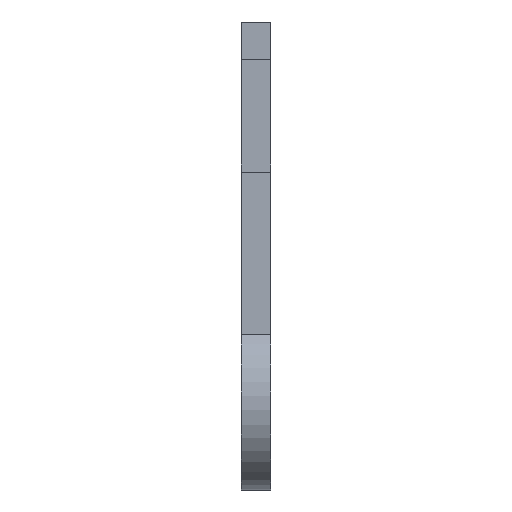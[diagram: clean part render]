
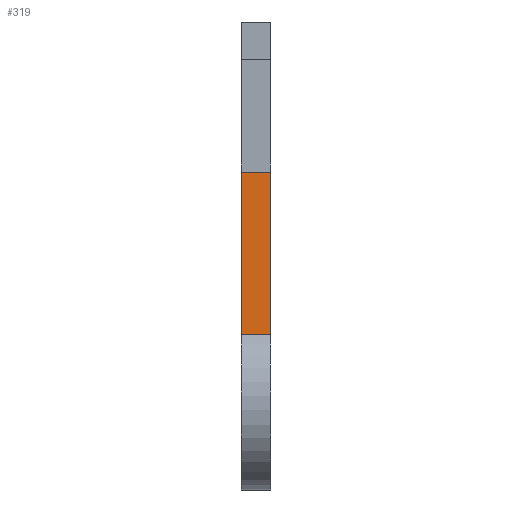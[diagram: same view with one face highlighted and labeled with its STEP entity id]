
A CAD part, left-side view. The second image highlights one B-rep face of the part: STEP entity #319.
In plain terms, the highlighted planar face has unit normal (-1, 0, 0).
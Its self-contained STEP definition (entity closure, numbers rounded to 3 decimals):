
#23 = EDGE_CURVE ( 'NONE', #856, #570, #962, .T. ) ;
#47 = CARTESIAN_POINT ( 'NONE',  ( -28.1, 0., 0. ) ) ;
#79 = LINE ( 'NONE', #763, #236 ) ;
#111 = DIRECTION ( 'NONE',  ( 0., -1., 0. ) ) ;
#119 = FACE_OUTER_BOUND ( 'NONE', #714, .T. ) ;
#145 = ORIENTED_EDGE ( 'NONE', *, *, #798, .F. ) ;
#173 = AXIS2_PLACEMENT_3D ( 'NONE', #424, #898, #961 ) ;
#182 = ORIENTED_EDGE ( 'NONE', *, *, #23, .F. ) ;
#236 = VECTOR ( 'NONE', #535, 1000. ) ;
#262 = CARTESIAN_POINT ( 'NONE',  ( -28.1, 1., -5.718 ) ) ;
#319 = ADVANCED_FACE ( 'NONE', ( #119 ), #654, .T. ) ;
#332 = ORIENTED_EDGE ( 'NONE', *, *, #529, .T. ) ;
#341 = VECTOR ( 'NONE', #111, 1000. ) ;
#401 = VERTEX_POINT ( 'NONE', #668 ) ;
#416 = LINE ( 'NONE', #262, #341 ) ;
#424 = CARTESIAN_POINT ( 'NONE',  ( -28.1, 1., 0. ) ) ;
#438 = ORIENTED_EDGE ( 'NONE', *, *, #581, .T. ) ;
#442 = DIRECTION ( 'NONE',  ( 0., -1., 0. ) ) ;
#457 = CARTESIAN_POINT ( 'NONE',  ( -28.1, 0., -5.718 ) ) ;
#469 = VERTEX_POINT ( 'NONE', #457 ) ;
#503 = VECTOR ( 'NONE', #442, 1000. ) ;
#513 = VECTOR ( 'NONE', #593, 1000. ) ;
#529 = EDGE_CURVE ( 'NONE', #856, #401, #79, .T. ) ;
#535 = DIRECTION ( 'NONE',  ( 0., 0., -1. ) ) ;
#570 = VERTEX_POINT ( 'NONE', #914 ) ;
#581 = EDGE_CURVE ( 'NONE', #401, #469, #416, .T. ) ;
#593 = DIRECTION ( 'NONE',  ( 0., 0., -1. ) ) ;
#654 = PLANE ( 'NONE',  #173 ) ;
#668 = CARTESIAN_POINT ( 'NONE',  ( -28.1, 1., -5.718 ) ) ;
#714 = EDGE_LOOP ( 'NONE', ( #145, #182, #332, #438 ) ) ;
#763 = CARTESIAN_POINT ( 'NONE',  ( -28.1, 1., 0. ) ) ;
#798 = EDGE_CURVE ( 'NONE', #570, #469, #977, .T. ) ;
#826 = CARTESIAN_POINT ( 'NONE',  ( -28.1, 1., -0.266 ) ) ;
#837 = CARTESIAN_POINT ( 'NONE',  ( -28.1, 1., -0.266 ) ) ;
#856 = VERTEX_POINT ( 'NONE', #837 ) ;
#898 = DIRECTION ( 'NONE',  ( -1., 0., 0. ) ) ;
#914 = CARTESIAN_POINT ( 'NONE',  ( -28.1, 0., -0.266 ) ) ;
#961 = DIRECTION ( 'NONE',  ( 0., 0., 1. ) ) ;
#962 = LINE ( 'NONE', #826, #503 ) ;
#977 = LINE ( 'NONE', #47, #513 ) ;
